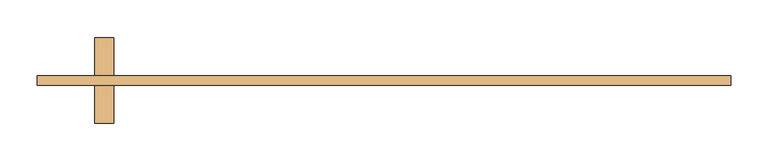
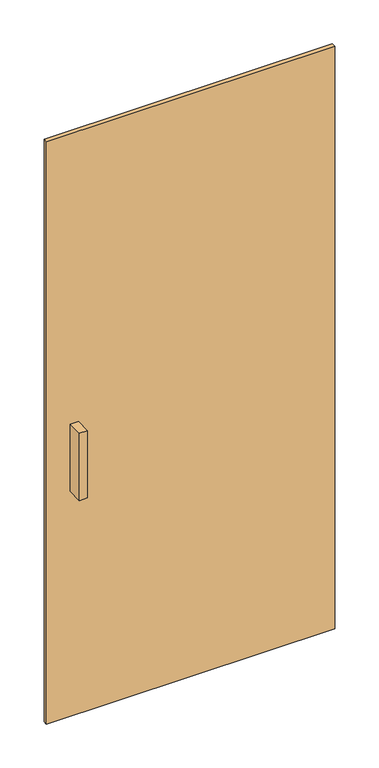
"""IFC4 building model written with IfcOpenShell, lengths in millimetres: door geometry, M_Dveře, obvodový plášť, jednoduché zasklení : M_Dveře, obvodový plášť, jednoduché zasklení."""

from ifc_helpers import new_model, si_unit, frame, origin, origin_with_axes, place, context, project, spatial, polyline, outline, extrude, source, transform, mapped, element, save


def door_21d3b074(model_context):
    return source(origin(), model_context, "Body", "SweptSolid", [
        extrude(outline(polyline([(462.5, 50.8), (462.5, 38.1), (-462.5, 38.1), (-462.5, 50.8), (462.5, 50.8)])), origin_with_axes(), (0.0, 0.0, 1.0), 1975.0),
        extrude(outline(polyline([(-386.3, 101.6), (-360.9, 101.6), (-360.9, 50.8), (-386.3, 50.8), (-386.3, 101.6)])), frame((0.0, 0.0, 762.0), z_axis=(0.0, 0.0, 1.0), x_axis=(1.0, 0.0, 0.0)), (0.0, 0.0, 1.0), 228.6),
        extrude(outline(polyline([(-360.9, -12.7), (-386.3, -12.7), (-386.3, 38.1), (-360.9, 38.1), (-360.9, -12.7)])), frame((0.0, 0.0, 762.0), z_axis=(0.0, 0.0, 1.0), x_axis=(1.0, 0.0, 0.0)), (0.0, 0.0, 1.0), 228.6),
    ])


if __name__ == "__main__":
    model = new_model("IFC4")
    model_context = context("Model", 3, world=origin())
    ifc_project = project(units=[si_unit("LENGTHUNIT", "METRE", prefix="MILLI")], contexts=[model_context])
    site = spatial("IfcSite", under=ifc_project)
    building = spatial("IfcBuilding", under=site)
    placement = place(None, origin())
    door_shape = door_21d3b074(model_context)
    element("IfcDoor", 1, ObjectType="M_Dveře, obvodový plášť, jednoduché zasklení : M_Dveře, obvodový plášť, jednoduché zasklení", at=placement, inside=building, context=model_context, shape_type="MappedRepresentation", body=[
        mapped(door_shape, transform((0.0, 0.0, 0.0), x_axis=(1.0, 0.0, 0.0), y_axis=(0.0, 1.0, 0.0), z_axis=(0.0, 0.0, 1.0))),
    ])
    save(model, "model.ifc")
